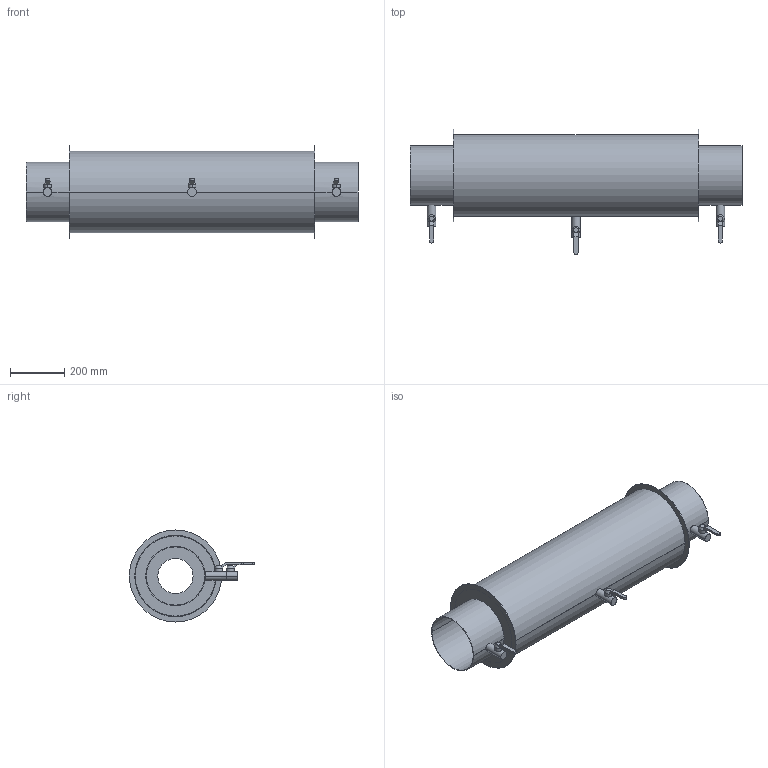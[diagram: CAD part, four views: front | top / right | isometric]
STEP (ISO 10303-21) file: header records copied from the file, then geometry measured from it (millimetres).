
FILE_DESCRIPTION((''),'2;1');
FILE_NAME('51666570','2021-09-13T14:45:58',('slc'),('HUBER SE'),'CREO PARAMETRIC BY PTC INC, 2019224','CREO PARAMETRIC BY PTC INC, 2019224','');
FILE_SCHEMA(('AUTOMOTIVE_DESIGN { 1 0 10303 214 1 1 1 1 }'));
Length unit declared in the file: millimetre
Products named in the file (1): 51666570
Bounding box: 1225 x 462 x 340 mm (x, y, z)
Volume: 2686125.1 mm3; surface area: 2481815 mm2
Topology: 8 solids, 8 shells, 85 faces, 173 edges, 112 vertices
Faces by surface type: plane 44, cylinder 35, cone 6
Entity records: 2942 total; most frequent: CARTESIAN_POINT 582, DIRECTION 411, ORIENTED_EDGE 346, EDGE_CURVE 173, AXIS2_PLACEMENT_3D 157, VERTEX_POINT 112, COLOUR_RGB 106, VECTOR 97
